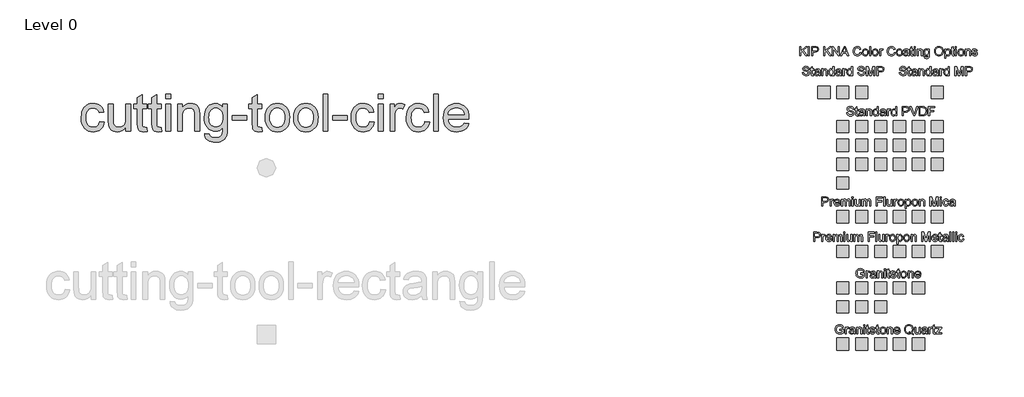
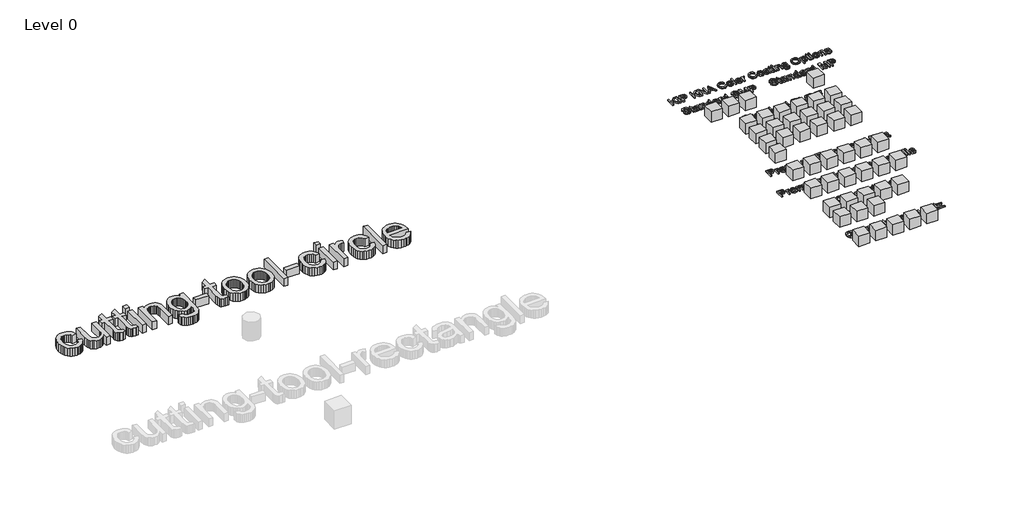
# One storey, part 5 of 5: 50 proxies.
"""IFC4 building model written with IfcOpenShell, lengths in millimetres."""

from ifc_helpers import new_model, si_unit, origin, origin_with_axes, place, context, project, spatial, polyline, outline, extrude, transform, mapped, element, save
from components import ks_color_sample_ks_color_sample_0243efec, r19_kna_color_range_kingspan_quadcore_4278cd54, r19_kna_color_range_kingspan_quadcore_c5814d20, r19_kna_color_range_kingspan_quadcore_91b79b7c

model = new_model("IFC4")

# Units and contexts
model_context = context("Model", 3, world=origin())
ifc_project = project(units=[si_unit("LENGTHUNIT", "METRE", prefix="MILLI")], contexts=[model_context])

# Site, building, storey
site = spatial("IfcSite", under=ifc_project)
building = spatial("IfcBuilding", under=site)
storey = spatial("IfcBuildingStorey", under=building, Name="Level 0", Elevation=0.0)

# Proxies
placement = place(None, origin())
element("IfcBuildingElementProxy", 1, Name="24\" Arial", ObjectType="24\" Arial", at=placement, inside=storey, context=model_context, shape_type="SweptSolid", body=[
    extrude(outline(polyline([(295.3364524, 13162.5064112), (371.4782259, 13152.9886895), (363.1966927, 13117.0602195), (350.2492451, 13085.2678689), (332.6358832, 13057.6116376), (310.356607, 13034.0915255), (284.350176, 13015.3209797), (255.5553501, 13001.9134469), (223.9721291, 12993.8689273), (189.600513, 12991.1874207), (146.8962432, 12994.9285174), (108.6069322, 13006.1518074), (74.7325799, 13024.8572907), (45.2731865, 13051.0449673), (21.4277617, 13084.2222208), (4.3953154, 13123.8964347), (-5.8241524, 13170.067609), (-9.2306416, 13222.7357437), (-3.4121907, 13290.4937429), (3.860873, 13320.9848425), (14.0431622, 13349.2173421), (27.2043867, 13374.6242681), (43.4142565, 13396.6386469), (62.6727714, 13415.2604783), (84.9799316, 13430.4897625), (109.3272675, 13442.3311467), (134.7063096, 13450.7892783), (161.1170578, 13455.8641572), (188.5595122, 13457.5557835), (222.340918, 13455.232121), (252.8970801, 13448.2611334), (280.2279987, 13436.6428208), (304.3336737, 13420.3771832), (324.8051405, 13399.8360065), (341.2334346, 13375.3910768), (353.6185558, 13347.042394), (361.9605043, 13314.7899582), (285.8187307, 13305.2722365), (272.0068807, 13338.4913159), (250.4990604, 13362.3042094), (222.484985, 13376.6365599), (189.1543698, 13381.41401), (163.2827113, 13379.0624635), (139.9484923, 13372.0078241), (119.1517127, 13360.2500918), (100.8923726, 13343.7892665), (86.0255798, 13322.2442676), (75.4064421, 13295.2340144), (69.0349594, 13262.758507), (66.9111319, 13224.8177453), (68.9884862, 13186.3053627), (75.2205491, 13153.453422), (85.6073205, 13126.2619231), (100.1488006, 13104.7308662), (118.0456493, 13088.3676347), (138.4985268, 13076.6796122), (161.5074331, 13069.6667988), (187.0723682, 13067.3291943), (226.5002739, 13073.1662345), (243.5513095, 13080.4625348), (258.8270669, 13090.6773553), (271.8999922, 13103.9222316), (282.3425316, 13120.3086998), (290.154685, 13139.8367596), (295.3364524, 13162.5064112)])), origin_with_axes(), (0.0, 0.0, 1.0), 152.4),
    extrude(outline(polyline([(723.6339285, 13000.7051424), (723.6339285, 13077.590488), (696.0845856, 13039.789146), (663.9994535, 13012.7881875), (627.3785322, 12996.5876124), (586.2218216, 12991.1874207), (549.1361677, 12994.979638), (514.6158373, 13006.3562897), (485.6537076, 13023.4584458), (465.242656, 13044.4271764), (451.5051632, 13069.8945177), (442.5637098, 13100.4925058), (438.1022778, 13171.2805608), (438.1022778, 13448.0380618), (514.2440513, 13448.0380618), (514.2440513, 13207.1207316), (515.3965879, 13158.9372655), (518.8541977, 13129.491814), (529.9520099, 13103.5969189), (548.968864, 13083.91085), (574.6406876, 13071.4746082), (605.7034081, 13067.3291943), (638.5507016, 13071.5675547), (669.2788147, 13084.282636), (694.6160309, 13104.3033123), (711.2906331, 13130.4584576), (720.5481046, 13166.2800391), (723.6339285, 13215.3000236), (723.6339285, 13448.0380618), (799.775702, 13448.0380618), (799.775702, 13000.7051424), (723.6339285, 13000.7051424)])), origin_with_axes(), (0.0, 0.0, 1.0), 152.4),
    extrude(outline(polyline([(1066.2719093, 13064.2061918), (1075.789631, 12998.4744264), (1045.6377861, 12993.0091722), (1018.8320152, 12991.1874207), (982.2854511, 12994.3476018), (955.033537, 13003.8281449), (935.7750221, 13018.4393348), (923.2086551, 13036.9914564), (916.2934355, 13068.8535169), (913.9883623, 13123.3945236), (913.9883623, 13371.8962883), (856.8820321, 13371.8962883), (856.8820321, 13448.0380618), (913.9883623, 13448.0380618), (913.9883623, 13556.7482893), (990.1301358, 13601.5113241), (990.1301358, 13448.0380618), (1066.2719093, 13448.0380618), (1066.2719093, 13371.8962883), (990.1301358, 13371.8962883), (990.1301358, 13125.6252396), (994.1454246, 13086.3646376), (1007.1579347, 13072.4598411), (1018.1442111, 13068.611856), (1033.1085978, 13067.3291943), (1066.2719093, 13064.2061918)])), origin_with_axes(), (0.0, 0.0, 1.0), 152.4),
    extrude(outline(polyline([(1304.2149515, 13064.2061918), (1313.7326732, 12998.4744264), (1283.5808283, 12993.0091722), (1256.7750575, 12991.1874207), (1220.2284933, 12994.3476018), (1192.9765793, 13003.8281449), (1173.7180643, 13018.4393348), (1161.1516974, 13036.9914564), (1154.2364777, 13068.8535169), (1151.9314045, 13123.3945236), (1151.9314045, 13371.8962883), (1094.8250744, 13371.8962883), (1094.8250744, 13448.0380618), (1151.9314045, 13448.0380618), (1151.9314045, 13556.7482893), (1228.073178, 13601.5113241), (1228.073178, 13448.0380618), (1304.2149515, 13448.0380618), (1304.2149515, 13371.8962883), (1228.073178, 13371.8962883), (1228.073178, 13125.6252396), (1232.0884668, 13086.3646376), (1245.100977, 13072.4598411), (1256.0872534, 13068.611856), (1271.05164, 13067.3291943), (1304.2149515, 13064.2061918)])), origin_with_axes(), (0.0, 0.0, 1.0), 152.4),
    extrude(outline(polyline([(1380.356725, 13533.697557), (1380.356725, 13609.8393306), (1456.4984986, 13609.8393306), (1456.4984986, 13533.697557), (1380.356725, 13533.697557)])), origin_with_axes(), (0.0, 0.0, 1.0), 152.4),
    extrude(outline(polyline([(1380.356725, 13000.7051424), (1380.356725, 13448.0380618), (1456.4984986, 13448.0380618), (1456.4984986, 13000.7051424), (1380.356725, 13000.7051424)])), origin_with_axes(), (0.0, 0.0, 1.0), 152.4),
    extrude(outline(polyline([(1570.7111588, 13000.7051424), (1570.7111588, 13448.0380618), (1646.8529324, 13448.0380618), (1646.8529324, 13385.5780133), (1673.3055065, 13417.0682877), (1705.0746205, 13439.561341), (1742.1602744, 13453.0571729), (1784.5624681, 13457.5557835), (1822.0942651, 13453.93087), (1856.4658811, 13443.0561294), (1885.130582, 13426.2885806), (1905.5416336, 13404.9852426), (1919.3906622, 13379.2018833), (1928.3692942, 13348.9942705), (1932.384583, 13275.3806418), (1932.384583, 13000.7051424), (1856.2428095, 13000.7051424), (1856.2428095, 13265.1193481), (1854.0492721, 13304.4914859), (1847.4686598, 13332.486972), (1835.3298468, 13352.5448268), (1816.4617072, 13368.1040711), (1792.2770276, 13378.0865253), (1764.1885951, 13381.41401), (1741.068153, 13379.5457853), (1719.5928639, 13373.9411113), (1699.762728, 13364.599988), (1681.5777451, 13351.5224153), (1666.3856395, 13333.2212493), (1655.5341355, 13308.2093459), (1649.0232331, 13276.4867052), (1646.8529324, 13238.0533271), (1646.8529324, 13000.7051424), (1570.7111588, 13000.7051424)])), origin_with_axes(), (0.0, 0.0, 1.0), 152.4),
    extrude(outline(polyline([(2018.0440782, 12962.6342557), (2094.1858518, 12953.116534), (2102.5882154, 12929.3222298), (2118.8724424, 12912.9636456), (2150.8832173, 12900.2485643), (2192.7834999, 12896.0102038), (2237.4721775, 12900.8062433), (2255.522388, 12906.8012926), (2270.7098462, 12915.1943616), (2293.7605784, 12938.2450938), (2307.8884466, 12969.0289749), (2312.0152712, 13001.7833218), (2313.0934506, 13057.8114726), (2287.7562345, 13032.8274531), (2259.4819089, 13014.981725), (2228.2704739, 13004.2742881), (2194.1219295, 13000.7051424), (2152.3750086, 13004.859851), (2115.6193149, 13017.3239768), (2083.8548482, 13038.0975197), (2057.0816086, 13067.1804799), (2035.8386858, 13102.0725963), (2020.6651696, 13140.2736081), (2011.5610598, 13181.7835154), (2008.5263566, 13226.6023182), (2013.9730215, 13288.0771338), (2030.3130164, 13344.6071957), (2042.4239454, 13370.0977735), (2056.9700728, 13392.5118222), (2073.9513985, 13411.8493417), (2093.3679226, 13428.1103321), (2114.9082741, 13440.9927171), (2138.2610825, 13450.1944207), (2163.4263476, 13455.7154428), (2190.4040695, 13457.5557835), (2226.011874, 13453.3917803), (2258.3293723, 13440.8997706), (2287.3565645, 13420.0797544), (2313.0934506, 13390.9317317), (2313.0934506, 13448.0380618), (2389.2352241, 13448.0380618), (2389.2352241, 13061.8267614), (2384.0302201, 12972.6538885), (2377.523965, 12939.4859296), (2368.4152079, 12913.9302892), (2356.4855246, 12893.3194026), (2341.5164906, 12874.9857053), (2323.5081061, 12858.9291973), (2302.4603709, 12845.1498786), (2278.5870622, 12834.089245), (2252.1019568, 12826.1887924), (2223.0050547, 12821.4485208), (2191.2963559, 12819.8684303), (2153.9922778, 12822.094499), (2120.4525329, 12828.7727051), (2090.6771214, 12839.9030486), (2064.6660431, 12855.4855295), (2043.6554866, 12875.538737), (2028.8816403, 12900.0812606), (2020.3445041, 12929.1131001), (2018.0440782, 12962.6342557)]), holes=[polyline([(2084.6681301, 13231.8073222), (2086.6990111, 13194.159342), (2092.7916543, 13161.9673214), (2102.9460595, 13135.2312605), (2117.1622268, 13113.9511591), (2134.4456286, 13097.7180527), (2153.8017374, 13086.1229767), (2175.2305532, 13079.1659311), (2198.732076, 13076.8469159), (2222.0012324, 13079.1519892), (2243.3278071, 13086.0672088), (2262.7117998, 13097.5925749), (2280.1532107, 13113.7280875), (2294.5645657, 13134.7990592), (2304.8583907, 13161.1308029), (2311.0346856, 13192.7233186), (2313.0934506, 13229.5766062), (2310.9742704, 13264.8916292), (2304.6167297, 13295.5872111), (2294.0208286, 13321.6633519), (2279.1865671, 13343.1200517), (2261.3687229, 13359.8736584), (2241.8220738, 13371.8405204), (2220.5466197, 13379.0206376), (2197.5423607, 13381.41401), (2174.9238298, 13379.0578162), (2154.0619876, 13371.9892348), (2134.9568344, 13360.2082658), (2117.60837, 13343.7149093), (2103.197015, 13322.5835223), (2092.9031901, 13296.8884621), (2086.7268951, 13266.6297288), (2084.6681301, 13231.8073222)])]), origin_with_axes(), (0.0, 0.0, 1.0), 152.4),
    extrude(outline(polyline([(2465.3769977, 13181.5418545), (2465.3769977, 13257.683628), (2703.3200399, 13257.683628), (2703.3200399, 13181.5418545), (2465.3769977, 13181.5418545)])), origin_with_axes(), (0.0, 0.0, 1.0), 152.4),
    extrude(outline(polyline([(2950.7808038, 13064.2061918), (2960.2985255, 12998.4744264), (2930.1466806, 12993.0091722), (2903.3409098, 12991.1874207), (2866.7943456, 12994.3476018), (2839.5424316, 13003.8281449), (2820.2839166, 13018.4393348), (2807.7175497, 13036.9914564), (2800.80233, 13068.8535169), (2798.4972568, 13123.3945236), (2798.4972568, 13371.8962883), (2741.3909267, 13371.8962883), (2741.3909267, 13448.0380618), (2798.4972568, 13448.0380618), (2798.4972568, 13556.7482893), (2874.6390303, 13601.5113241), (2874.6390303, 13448.0380618), (2950.7808038, 13448.0380618), (2950.7808038, 13371.8962883), (2874.6390303, 13371.8962883), (2874.6390303, 13125.6252396), (2878.6543192, 13086.3646376), (2891.6668293, 13072.4598411), (2902.6531057, 13068.611856), (2917.6174923, 13067.3291943), (2950.7808038, 13064.2061918)])), origin_with_axes(), (0.0, 0.0, 1.0), 152.4),
    extrude(outline(polyline([(3007.887134, 13224.3716021), (3012.004664, 13282.3051561), (3024.3572539, 13332.2267217), (3044.9449039, 13374.136299), (3073.7676138, 13408.0338879), (3102.7855114, 13429.6997172), (3134.8148756, 13445.1753096), (3169.8557064, 13454.4606651), (3207.9080039, 13457.5557835), (3249.9151749, 13453.7868029), (3287.8977625, 13442.4798611), (3321.8557666, 13423.634958), (3351.7891872, 13397.2520938), (3376.220175, 13364.2235547), (3393.6708805, 13325.4416272), (3404.1413038, 13280.9063113), (3407.6314449, 13230.617607), (3406.088533, 13189.8605664), (3401.4597973, 13153.6950829), (3393.7452377, 13122.1211565), (3382.9448543, 13095.1387873), (3369.1934195, 13071.8324522), (3352.6257057, 13051.2866282), (3333.241713, 13033.5013153), (3311.0414412, 13018.4765134), (3286.889293, 13006.5375354), (3261.6496707, 12998.0096939), (3235.3225743, 12992.892989), (3207.9080039, 12991.1874207), (3165.2873859, 12994.9424594), (3126.9516016, 13006.2075753), (3092.900651, 13024.9827685), (3063.1345341, 13051.2680389), (3038.9637965, 13084.6172434), (3021.698984, 13124.5842388), (3011.3400965, 13171.169025), (3007.887134, 13224.3716021)]), holes=[polyline([(3084.0289075, 13224.5203165), (3086.2317396, 13187.5880244), (3092.8402358, 13155.6097808), (3103.8543961, 13128.5855857), (3119.2742206, 13106.515439), (3138.0308245, 13089.3714569), (3159.055323, 13077.1257554), (3182.3477161, 13069.7783346), (3207.9080039, 13067.3291943), (3233.3381665, 13069.7922765), (3256.5376131, 13077.1815233), (3277.5063437, 13089.4969347), (3296.2443583, 13106.7385106), (3311.6641828, 13129.0270815), (3322.6783431, 13156.4834779), (3329.2868393, 13189.1076997), (3331.4896714, 13226.899747), (3329.2728974, 13262.6609132), (3322.6225752, 13293.8026383), (3311.538705, 13320.3249223), (3296.0212867, 13342.2277652), (3277.2135622, 13359.3717473), (3256.2587736, 13371.6174488), (3233.1569208, 13378.9648697), (3207.9080039, 13381.41401), (3182.3477161, 13378.9741644), (3159.055323, 13371.6546274), (3138.0308245, 13359.4553992), (3119.2742206, 13342.3764796), (3103.8543961, 13320.3713956), (3092.8402358, 13293.3936737), (3086.2317396, 13261.443314), (3084.0289075, 13224.5203165)])]), origin_with_axes(), (0.0, 0.0, 1.0), 152.4),
    extrude(outline(polyline([(3474.2554968, 13224.3716021), (3478.3730268, 13282.3051561), (3490.7256167, 13332.2267217), (3511.3132667, 13374.136299), (3540.1359766, 13408.0338879), (3569.1538742, 13429.6997172), (3601.1832384, 13445.1753096), (3636.2240692, 13454.4606651), (3674.2763666, 13457.5557835), (3716.2835377, 13453.7868029), (3754.2661253, 13442.4798611), (3788.2241294, 13423.634958), (3818.15755, 13397.2520938), (3842.5885378, 13364.2235547), (3860.0392433, 13325.4416272), (3870.5096666, 13280.9063113), (3873.9998077, 13230.617607), (3872.4568958, 13189.8605664), (3867.8281601, 13153.6950829), (3860.1136005, 13122.1211565), (3849.3132171, 13095.1387873), (3835.5617823, 13071.8324522), (3818.9940685, 13051.2866282), (3799.6100758, 13033.5013153), (3777.409804, 13018.4765134), (3753.2576558, 13006.5375354), (3728.0180335, 12998.0096939), (3701.6909371, 12992.892989), (3674.2763666, 12991.1874207), (3631.6557487, 12994.9424594), (3593.3199644, 13006.2075753), (3559.2690138, 13024.9827685), (3529.5028969, 13051.2680389), (3505.3321593, 13084.6172434), (3488.0673468, 13124.5842388), (3477.7084593, 13171.169025), (3474.2554968, 13224.3716021)]), holes=[polyline([(3550.3972703, 13224.5203165), (3552.6001024, 13187.5880244), (3559.2085986, 13155.6097808), (3570.2227589, 13128.5855857), (3585.6425834, 13106.515439), (3604.3991873, 13089.3714569), (3625.4236858, 13077.1257554), (3648.7160789, 13069.7783346), (3674.2763666, 13067.3291943), (3699.7065293, 13069.7922765), (3722.9059759, 13077.1815233), (3743.8747065, 13089.4969347), (3762.6127211, 13106.7385106), (3778.0325456, 13129.0270815), (3789.0467059, 13156.4834779), (3795.6552021, 13189.1076997), (3797.8580342, 13226.899747), (3795.6412602, 13262.6609132), (3788.990938, 13293.8026383), (3777.9070678, 13320.3249223), (3762.3896495, 13342.2277652), (3743.581925, 13359.3717473), (3722.6271364, 13371.6174488), (3699.5252836, 13378.9648697), (3674.2763666, 13381.41401), (3648.7160789, 13378.9741644), (3625.4236858, 13371.6546274), (3604.3991873, 13359.4553992), (3585.6425834, 13342.3764796), (3570.2227589, 13320.3713956), (3559.2085986, 13293.3936737), (3552.6001024, 13261.443314), (3550.3972703, 13224.5203165)])]), origin_with_axes(), (0.0, 0.0, 1.0), 152.4),
    extrude(outline(polyline([(3959.6593029, 13000.7051424), (3959.6593029, 13609.8393306), (4035.8010765, 13609.8393306), (4035.8010765, 13000.7051424), (3959.6593029, 13000.7051424)])), origin_with_axes(), (0.0, 0.0, 1.0), 152.4),
    extrude(outline(polyline([(4111.94285, 13181.5418545), (4111.94285, 13257.683628), (4349.8858922, 13257.683628), (4349.8858922, 13181.5418545), (4111.94285, 13181.5418545)])), origin_with_axes(), (0.0, 0.0, 1.0), 152.4),
    extrude(outline(polyline([(4721.0770381, 13162.5064112), (4797.2188116, 13152.9886895), (4788.9372784, 13117.0602195), (4775.9898308, 13085.2678689), (4758.3764689, 13057.6116376), (4736.0971926, 13034.0915255), (4710.0907617, 13015.3209797), (4681.2959357, 13001.9134469), (4649.7127147, 12993.8689273), (4615.3410987, 12991.1874207), (4572.6368289, 12994.9285174), (4534.3475178, 13006.1518074), (4500.4731656, 13024.8572907), (4471.0137722, 13051.0449673), (4447.1683474, 13084.2222208), (4430.1359011, 13123.8964347), (4419.9164333, 13170.067609), (4416.509944, 13222.7357437), (4422.328395, 13290.4937429), (4429.6014587, 13320.9848425), (4439.7837479, 13349.2173421), (4452.9449724, 13374.6242681), (4469.1548421, 13396.6386469), (4488.4133571, 13415.2604783), (4510.7205173, 13430.4897625), (4535.0678532, 13442.3311467), (4560.4468953, 13450.7892783), (4586.8576435, 13455.8641572), (4614.3000979, 13457.5557835), (4648.0815036, 13455.232121), (4678.6376658, 13448.2611334), (4705.9685844, 13436.6428208), (4730.0742594, 13420.3771832), (4750.5457262, 13399.8360065), (4766.9740202, 13375.3910768), (4779.3591415, 13347.042394), (4787.7010899, 13314.7899582), (4711.5593164, 13305.2722365), (4697.7474664, 13338.4913159), (4676.2396461, 13362.3042094), (4648.2255707, 13376.6365599), (4614.8949555, 13381.41401), (4589.023297, 13379.0624635), (4565.6890779, 13372.0078241), (4544.8922984, 13360.2500918), (4526.6329583, 13343.7892665), (4511.7661655, 13322.2442676), (4501.1470277, 13295.2340144), (4494.7755451, 13262.758507), (4492.6517176, 13224.8177453), (4494.7290718, 13186.3053627), (4500.9611347, 13153.453422), (4511.3479062, 13126.2619231), (4525.8893863, 13104.7308662), (4543.786235, 13088.3676347), (4564.2391125, 13076.6796122), (4587.2480188, 13069.6667988), (4612.8129539, 13067.3291943), (4652.2408596, 13073.1662345), (4669.2918951, 13080.4625348), (4684.5676526, 13090.6773553), (4697.6405779, 13103.9222316), (4708.0831173, 13120.3086998), (4715.8952707, 13139.8367596), (4721.0770381, 13162.5064112)])), origin_with_axes(), (0.0, 0.0, 1.0), 152.4),
    extrude(outline(polyline([(4863.8428634, 13533.697557), (4863.8428634, 13609.8393306), (4939.984637, 13609.8393306), (4939.984637, 13533.697557), (4863.8428634, 13533.697557)])), origin_with_axes(), (0.0, 0.0, 1.0), 152.4),
    extrude(outline(polyline([(4863.8428634, 13000.7051424), (4863.8428634, 13448.0380618), (4939.984637, 13448.0380618), (4939.984637, 13000.7051424), (4863.8428634, 13000.7051424)])), origin_with_axes(), (0.0, 0.0, 1.0), 152.4),
    extrude(outline(polyline([(5054.1972972, 13000.7051424), (5054.1972972, 13448.0380618), (5120.8213491, 13448.0380618), (5120.8213491, 13381.8601532), (5145.4335825, 13420.2284688), (5168.1125287, 13442.8330578), (5190.8658321, 13453.8751021), (5215.7011372, 13457.5557835), (5253.6233095, 13451.6815647), (5292.1403395, 13434.0589081), (5266.7101768, 13365.7989979), (5239.9415846, 13377.510257), (5213.1729923, 13381.41401), (5190.4382782, 13377.6589714), (5170.1201731, 13366.3938555), (5153.7058211, 13348.4737701), (5142.6823661, 13324.7538231), (5133.4248946, 13282.2215043), (5130.3390708, 13235.822611), (5130.3390708, 13000.7051424), (5054.1972972, 13000.7051424)])), origin_with_axes(), (0.0, 0.0, 1.0), 152.4),
    extrude(outline(polyline([(5625.2605986, 13162.5064112), (5701.4023721, 13152.9886895), (5693.1208389, 13117.0602195), (5680.1733913, 13085.2678689), (5662.5600294, 13057.6116376), (5640.2807532, 13034.0915255), (5614.2743222, 13015.3209797), (5585.4794962, 13001.9134469), (5553.8962752, 12993.8689273), (5519.5246592, 12991.1874207), (5476.8203894, 12994.9285174), (5438.5310784, 13006.1518074), (5404.6567261, 13024.8572907), (5375.1973327, 13051.0449673), (5351.3519079, 13084.2222208), (5334.3194616, 13123.8964347), (5324.0999938, 13170.067609), (5320.6935046, 13222.7357437), (5326.5119555, 13290.4937429), (5333.7850192, 13320.9848425), (5343.9673084, 13349.2173421), (5357.1285329, 13374.6242681), (5373.3384026, 13396.6386469), (5392.5969176, 13415.2604783), (5414.9040778, 13430.4897625), (5439.2514137, 13442.3311467), (5464.6304558, 13450.7892783), (5491.041204, 13455.8641572), (5518.4836584, 13457.5557835), (5552.2650642, 13455.232121), (5582.8212263, 13448.2611334), (5610.1521449, 13436.6428208), (5634.2578199, 13420.3771832), (5654.7292867, 13399.8360065), (5671.1575808, 13375.3910768), (5683.542702, 13347.042394), (5691.8846504, 13314.7899582), (5615.7428769, 13305.2722365), (5601.9310269, 13338.4913159), (5580.4232066, 13362.3042094), (5552.4091312, 13376.6365599), (5519.078516, 13381.41401), (5493.2068575, 13379.0624635), (5469.8726385, 13372.0078241), (5449.0758589, 13360.2500918), (5430.8165188, 13343.7892665), (5415.949726, 13322.2442676), (5405.3305882, 13295.2340144), (5398.9591056, 13262.758507), (5396.8352781, 13224.8177453), (5398.9126324, 13186.3053627), (5405.1446952, 13153.453422), (5415.5314667, 13126.2619231), (5430.0729468, 13104.7308662), (5447.9697955, 13088.3676347), (5468.422673, 13076.6796122), (5491.4315793, 13069.6667988), (5516.9965144, 13067.3291943), (5556.4244201, 13073.1662345), (5573.4754557, 13080.4625348), (5588.7512131, 13090.6773553), (5601.8241384, 13103.9222316), (5612.2666778, 13120.3086998), (5620.0788312, 13139.8367596), (5625.2605986, 13162.5064112)])), origin_with_axes(), (0.0, 0.0, 1.0), 152.4),
    extrude(outline(polyline([(5768.026424, 13000.7051424), (5768.026424, 13609.8393306), (5844.1681975, 13609.8393306), (5844.1681975, 13000.7051424), (5768.026424, 13000.7051424)])), origin_with_axes(), (0.0, 0.0, 1.0), 152.4),
    extrude(outline(polyline([(6271.5733871, 13133.9532461), (6346.2280166, 13124.4355244), (6334.781655, 13094.5346351), (6319.3292993, 13068.1843021), (6299.8709493, 13045.3845254), (6276.4066052, 13026.1353051), (6249.1779277, 13010.8456057), (6218.4265779, 12999.9243918), (6184.1525557, 12993.3716635), (6146.3558611, 12991.1874207), (6099.1111547, 12994.9564013), (6057.0156845, 13006.2633432), (6020.0694504, 13025.1082462), (5988.2724524, 13051.4911105), (5962.70287, 13084.6776586), (5944.4388826, 13123.9336133), (5933.4804902, 13169.2589744), (5929.8276927, 13220.6537421), (5933.5176688, 13273.7912566), (5944.587597, 13320.6269984), (5963.0374775, 13361.1609675), (5988.86731, 13395.3931637), (6020.5806561, 13422.5893099), (6056.6810771, 13442.0151286), (6097.1685729, 13453.6706198), (6142.0431435, 13457.5557835), (6185.472396, 13453.6799144), (6224.74694, 13442.0523072), (6259.8667753, 13422.6729618), (6290.8319021, 13395.5418781), (6316.108703, 13361.3840391), (6334.1635608, 13320.9244272), (6344.9964755, 13274.1630427), (6348.607447, 13221.0998853), (6348.1613038, 13200.5772979), (6005.9694662, 13200.5772979), (6010.3797777, 13170.1930868), (6019.14928, 13143.5825036), (6032.2779733, 13120.7455483), (6049.7658574, 13101.682221), (6070.6462888, 13086.6527718), (6093.9526239, 13075.9174509), (6119.6848627, 13069.4762584), (6147.8430051, 13067.3291943), (6188.3676795, 13071.3073045), (6222.4976346, 13083.2416352), (6250.2328705, 13103.8757584), (6271.5733871, 13133.9532461)]), holes=[polyline([(6005.9694662, 13276.7190714), (6272.4656735, 13276.7190714), (6262.1672012, 13316.946317), (6253.3093997, 13332.7658115), (6241.9792212, 13345.7225537), (6221.2149729, 13361.3375658), (6197.5879724, 13372.4911459), (6171.0982197, 13379.183294), (6141.7457147, 13381.41401), (6114.9724751, 13379.6340845), (6090.4206569, 13374.294308), (6068.0902601, 13365.3946806), (6047.9812846, 13352.9352021), (6031.1068474, 13337.492141), (6018.4800652, 13319.6417655), (6010.1009382, 13299.3840757), (6005.9694662, 13276.7190714)])]), origin_with_axes(), (0.0, 0.0, 1.0), 152.4),
])
ks_color_sample_ks_color_sample_shape = ks_color_sample_ks_color_sample_0243efec(model_context)
element("IfcBuildingElementProxy", 2, Name="KS_Color Sample : KS_Color Sample", ObjectType="KS_Color Sample : KS_Color Sample", at=placement, inside=storey, context=model_context, shape_type="MappedRepresentation", body=[
    mapped(ks_color_sample_ks_color_sample_shape, transform((12166.5853815, 13639.2290821, 0.0), x_axis=(1.0, 0.0, 0.0), y_axis=(0.0, 1.0, 0.0), z_axis=(0.0, 0.0, 1.0))),
])
element("IfcBuildingElementProxy", 3, Name="KS_Color Sample : KS_Color Sample", ObjectType="KS_Color Sample : KS_Color Sample", at=placement, inside=storey, context=model_context, shape_type="MappedRepresentation", body=[
    mapped(ks_color_sample_ks_color_sample_shape, transform((12476.5853815, 13639.2290821, 0.0), x_axis=(1.0, 0.0, 0.0), y_axis=(0.0, 1.0, 0.0), z_axis=(0.0, 0.0, 1.0))),
])
element("IfcBuildingElementProxy", 4, Name="KS_Color Sample : KS_Color Sample", ObjectType="KS_Color Sample : KS_Color Sample", at=placement, inside=storey, context=model_context, shape_type="MappedRepresentation", body=[
    mapped(ks_color_sample_ks_color_sample_shape, transform((12786.5853815, 13639.2290821, 0.0), x_axis=(1.0, 0.0, 0.0), y_axis=(0.0, 1.0, 0.0), z_axis=(0.0, 0.0, 1.0))),
])
element("IfcBuildingElementProxy", 5, Name="KS_Color Sample : KS_Color Sample", ObjectType="KS_Color Sample : KS_Color Sample", at=placement, inside=storey, context=model_context, shape_type="MappedRepresentation", body=[
    mapped(ks_color_sample_ks_color_sample_shape, transform((14026.5853815, 13639.2290821, 0.0), x_axis=(1.0, 0.0, 0.0), y_axis=(0.0, 1.0, 0.0), z_axis=(0.0, 0.0, 1.0))),
])
element("IfcBuildingElementProxy", 6, Name="KS_Color Sample : KS_Color Sample", ObjectType="KS_Color Sample : KS_Color Sample", at=placement, inside=storey, context=model_context, shape_type="MappedRepresentation", body=[
    mapped(ks_color_sample_ks_color_sample_shape, transform((12786.5853815, 13079.2290821, 0.0), x_axis=(1.0, 0.0, 0.0), y_axis=(0.0, 1.0, 0.0), z_axis=(0.0, 0.0, 1.0))),
])
element("IfcBuildingElementProxy", 7, Name="KS_Color Sample : KS_Color Sample", ObjectType="KS_Color Sample : KS_Color Sample", at=placement, inside=storey, context=model_context, shape_type="MappedRepresentation", body=[
    mapped(ks_color_sample_ks_color_sample_shape, transform((13096.5853815, 13079.2290821, 0.0), x_axis=(1.0, 0.0, 0.0), y_axis=(0.0, 1.0, 0.0), z_axis=(0.0, 0.0, 1.0))),
])
element("IfcBuildingElementProxy", 8, Name="KS_Color Sample : KS_Color Sample", ObjectType="KS_Color Sample : KS_Color Sample", at=placement, inside=storey, context=model_context, shape_type="MappedRepresentation", body=[
    mapped(ks_color_sample_ks_color_sample_shape, transform((13406.5853815, 13079.2290821, 0.0), x_axis=(1.0, 0.0, 0.0), y_axis=(0.0, 1.0, 0.0), z_axis=(0.0, 0.0, 1.0))),
])
element("IfcBuildingElementProxy", 9, Name="KS_Color Sample : KS_Color Sample", ObjectType="KS_Color Sample : KS_Color Sample", at=placement, inside=storey, context=model_context, shape_type="MappedRepresentation", body=[
    mapped(ks_color_sample_ks_color_sample_shape, transform((13716.5853815, 13079.2290821, 0.0), x_axis=(1.0, 0.0, 0.0), y_axis=(0.0, 1.0, 0.0), z_axis=(0.0, 0.0, 1.0))),
])
element("IfcBuildingElementProxy", 10, Name="KS_Color Sample : KS_Color Sample", ObjectType="KS_Color Sample : KS_Color Sample", at=placement, inside=storey, context=model_context, shape_type="MappedRepresentation", body=[
    mapped(ks_color_sample_ks_color_sample_shape, transform((12476.5853815, 11599.2290821, 0.0), x_axis=(1.0, 0.0, 0.0), y_axis=(0.0, 1.0, 0.0), z_axis=(0.0, 0.0, 1.0))),
])
element("IfcBuildingElementProxy", 11, Name="KS_Color Sample : KS_Color Sample", ObjectType="KS_Color Sample : KS_Color Sample", at=placement, inside=storey, context=model_context, shape_type="MappedRepresentation", body=[
    mapped(ks_color_sample_ks_color_sample_shape, transform((12786.5853815, 11599.2290821, 0.0), x_axis=(1.0, 0.0, 0.0), y_axis=(0.0, 1.0, 0.0), z_axis=(0.0, 0.0, 1.0))),
])
element("IfcBuildingElementProxy", 12, Name="KS_Color Sample : KS_Color Sample", ObjectType="KS_Color Sample : KS_Color Sample", at=placement, inside=storey, context=model_context, shape_type="MappedRepresentation", body=[
    mapped(ks_color_sample_ks_color_sample_shape, transform((13096.5853815, 11599.2290821, 0.0), x_axis=(1.0, 0.0, 0.0), y_axis=(0.0, 1.0, 0.0), z_axis=(0.0, 0.0, 1.0))),
])
element("IfcBuildingElementProxy", 13, Name="KS_Color Sample : KS_Color Sample", ObjectType="KS_Color Sample : KS_Color Sample", at=placement, inside=storey, context=model_context, shape_type="MappedRepresentation", body=[
    mapped(ks_color_sample_ks_color_sample_shape, transform((13406.5853815, 11599.2290821, 0.0), x_axis=(1.0, 0.0, 0.0), y_axis=(0.0, 1.0, 0.0), z_axis=(0.0, 0.0, 1.0))),
])
element("IfcBuildingElementProxy", 14, Name="KS_Color Sample : KS_Color Sample", ObjectType="KS_Color Sample : KS_Color Sample", at=placement, inside=storey, context=model_context, shape_type="MappedRepresentation", body=[
    mapped(ks_color_sample_ks_color_sample_shape, transform((14026.5853815, 13079.2290821, 0.0), x_axis=(1.0, 0.0, 0.0), y_axis=(0.0, 1.0, 0.0), z_axis=(0.0, 0.0, 1.0))),
])
element("IfcBuildingElementProxy", 15, Name="KS_Color Sample : KS_Color Sample", ObjectType="KS_Color Sample : KS_Color Sample", at=placement, inside=storey, context=model_context, shape_type="MappedRepresentation", body=[
    mapped(ks_color_sample_ks_color_sample_shape, transform((13716.5853815, 12769.2290821, 0.0), x_axis=(1.0, 0.0, 0.0), y_axis=(0.0, 1.0, 0.0), z_axis=(0.0, 0.0, 1.0))),
])
element("IfcBuildingElementProxy", 16, Name="KS_Color Sample : KS_Color Sample", ObjectType="KS_Color Sample : KS_Color Sample", at=placement, inside=storey, context=model_context, shape_type="MappedRepresentation", body=[
    mapped(ks_color_sample_ks_color_sample_shape, transform((14026.5853815, 12769.2290821, 0.0), x_axis=(1.0, 0.0, 0.0), y_axis=(0.0, 1.0, 0.0), z_axis=(0.0, 0.0, 1.0))),
])
element("IfcBuildingElementProxy", 17, Name="KS_Color Sample : KS_Color Sample", ObjectType="KS_Color Sample : KS_Color Sample", at=placement, inside=storey, context=model_context, shape_type="MappedRepresentation", body=[
    mapped(ks_color_sample_ks_color_sample_shape, transform((12476.5853815, 12769.2290821, 0.0), x_axis=(1.0, 0.0, 0.0), y_axis=(0.0, 1.0, 0.0), z_axis=(0.0, 0.0, 1.0))),
])
element("IfcBuildingElementProxy", 18, Name="KS_Color Sample : KS_Color Sample", ObjectType="KS_Color Sample : KS_Color Sample", at=placement, inside=storey, context=model_context, shape_type="MappedRepresentation", body=[
    mapped(ks_color_sample_ks_color_sample_shape, transform((13096.5853815, 12769.2290821, 0.0), x_axis=(1.0, 0.0, 0.0), y_axis=(0.0, 1.0, 0.0), z_axis=(0.0, 0.0, 1.0))),
])
element("IfcBuildingElementProxy", 19, Name="KS_Color Sample : KS_Color Sample", ObjectType="KS_Color Sample : KS_Color Sample", at=placement, inside=storey, context=model_context, shape_type="MappedRepresentation", body=[
    mapped(ks_color_sample_ks_color_sample_shape, transform((13406.5853815, 12769.2290821, 0.0), x_axis=(1.0, 0.0, 0.0), y_axis=(0.0, 1.0, 0.0), z_axis=(0.0, 0.0, 1.0))),
])
element("IfcBuildingElementProxy", 20, Name="KS_Color Sample : KS_Color Sample", ObjectType="KS_Color Sample : KS_Color Sample", at=placement, inside=storey, context=model_context, shape_type="MappedRepresentation", body=[
    mapped(ks_color_sample_ks_color_sample_shape, transform((12476.5853815, 12459.2290821, 0.0), x_axis=(1.0, 0.0, 0.0), y_axis=(0.0, 1.0, 0.0), z_axis=(0.0, 0.0, 1.0))),
])
element("IfcBuildingElementProxy", 21, Name="KS_Color Sample : KS_Color Sample", ObjectType="KS_Color Sample : KS_Color Sample", at=placement, inside=storey, context=model_context, shape_type="MappedRepresentation", body=[
    mapped(ks_color_sample_ks_color_sample_shape, transform((12786.5853815, 12459.2290821, 0.0), x_axis=(1.0, 0.0, 0.0), y_axis=(0.0, 1.0, 0.0), z_axis=(0.0, 0.0, 1.0))),
])
element("IfcBuildingElementProxy", 22, Name="KS_Color Sample : KS_Color Sample", ObjectType="KS_Color Sample : KS_Color Sample", at=placement, inside=storey, context=model_context, shape_type="MappedRepresentation", body=[
    mapped(ks_color_sample_ks_color_sample_shape, transform((13096.5853815, 12459.2290821, 0.0), x_axis=(1.0, 0.0, 0.0), y_axis=(0.0, 1.0, 0.0), z_axis=(0.0, 0.0, 1.0))),
])
element("IfcBuildingElementProxy", 23, Name="KS_Color Sample : KS_Color Sample", ObjectType="KS_Color Sample : KS_Color Sample", at=placement, inside=storey, context=model_context, shape_type="MappedRepresentation", body=[
    mapped(ks_color_sample_ks_color_sample_shape, transform((13406.5853815, 12459.2290821, 0.0), x_axis=(1.0, 0.0, 0.0), y_axis=(0.0, 1.0, 0.0), z_axis=(0.0, 0.0, 1.0))),
])
element("IfcBuildingElementProxy", 24, Name="KS_Color Sample : KS_Color Sample", ObjectType="KS_Color Sample : KS_Color Sample", at=placement, inside=storey, context=model_context, shape_type="MappedRepresentation", body=[
    mapped(ks_color_sample_ks_color_sample_shape, transform((13716.5853815, 12459.2290821, 0.0), x_axis=(1.0, 0.0, 0.0), y_axis=(0.0, 1.0, 0.0), z_axis=(0.0, 0.0, 1.0))),
])
element("IfcBuildingElementProxy", 25, Name="KS_Color Sample : KS_Color Sample", ObjectType="KS_Color Sample : KS_Color Sample", at=placement, inside=storey, context=model_context, shape_type="MappedRepresentation", body=[
    mapped(ks_color_sample_ks_color_sample_shape, transform((14026.5853815, 12459.2290821, 0.0), x_axis=(1.0, 0.0, 0.0), y_axis=(0.0, 1.0, 0.0), z_axis=(0.0, 0.0, 1.0))),
])
element("IfcBuildingElementProxy", 26, Name="KS_Color Sample : KS_Color Sample", ObjectType="KS_Color Sample : KS_Color Sample", at=placement, inside=storey, context=model_context, shape_type="MappedRepresentation", body=[
    mapped(ks_color_sample_ks_color_sample_shape, transform((12476.5853815, 12149.2290821, 0.0), x_axis=(1.0, 0.0, 0.0), y_axis=(0.0, 1.0, 0.0), z_axis=(0.0, 0.0, 1.0))),
])
element("IfcBuildingElementProxy", 27, Name="KS_Color Sample : KS_Color Sample", ObjectType="KS_Color Sample : KS_Color Sample", at=placement, inside=storey, context=model_context, shape_type="MappedRepresentation", body=[
    mapped(ks_color_sample_ks_color_sample_shape, transform((13716.5853815, 11599.2290821, 0.0), x_axis=(1.0, 0.0, 0.0), y_axis=(0.0, 1.0, 0.0), z_axis=(0.0, 0.0, 1.0))),
])
element("IfcBuildingElementProxy", 28, Name="KS_Color Sample : KS_Color Sample", ObjectType="KS_Color Sample : KS_Color Sample", at=placement, inside=storey, context=model_context, shape_type="MappedRepresentation", body=[
    mapped(ks_color_sample_ks_color_sample_shape, transform((14026.5853815, 11599.2290821, 0.0), x_axis=(1.0, 0.0, 0.0), y_axis=(0.0, 1.0, 0.0), z_axis=(0.0, 0.0, 1.0))),
])
element("IfcBuildingElementProxy", 29, Name="KS_Color Sample : KS_Color Sample", ObjectType="KS_Color Sample : KS_Color Sample", at=placement, inside=storey, context=model_context, shape_type="MappedRepresentation", body=[
    mapped(ks_color_sample_ks_color_sample_shape, transform((12476.5853815, 11029.2290821, 0.0), x_axis=(1.0, 0.0, 0.0), y_axis=(0.0, 1.0, 0.0), z_axis=(0.0, 0.0, 1.0))),
])
element("IfcBuildingElementProxy", 30, Name="KS_Color Sample : KS_Color Sample", ObjectType="KS_Color Sample : KS_Color Sample", at=placement, inside=storey, context=model_context, shape_type="MappedRepresentation", body=[
    mapped(ks_color_sample_ks_color_sample_shape, transform((12786.5853815, 11029.2290821, 0.0), x_axis=(1.0, 0.0, 0.0), y_axis=(0.0, 1.0, 0.0), z_axis=(0.0, 0.0, 1.0))),
])
element("IfcBuildingElementProxy", 31, Name="KS_Color Sample : KS_Color Sample", ObjectType="KS_Color Sample : KS_Color Sample", at=placement, inside=storey, context=model_context, shape_type="MappedRepresentation", body=[
    mapped(ks_color_sample_ks_color_sample_shape, transform((13096.5853815, 11029.2290821, 0.0), x_axis=(1.0, 0.0, 0.0), y_axis=(0.0, 1.0, 0.0), z_axis=(0.0, 0.0, 1.0))),
])
element("IfcBuildingElementProxy", 32, Name="KS_Color Sample : KS_Color Sample", ObjectType="KS_Color Sample : KS_Color Sample", at=placement, inside=storey, context=model_context, shape_type="MappedRepresentation", body=[
    mapped(ks_color_sample_ks_color_sample_shape, transform((13406.5853815, 11029.2290821, 0.0), x_axis=(1.0, 0.0, 0.0), y_axis=(0.0, 1.0, 0.0), z_axis=(0.0, 0.0, 1.0))),
])
element("IfcBuildingElementProxy", 33, Name="KS_Color Sample : KS_Color Sample", ObjectType="KS_Color Sample : KS_Color Sample", at=placement, inside=storey, context=model_context, shape_type="MappedRepresentation", body=[
    mapped(ks_color_sample_ks_color_sample_shape, transform((13716.5853815, 11029.2290821, 0.0), x_axis=(1.0, 0.0, 0.0), y_axis=(0.0, 1.0, 0.0), z_axis=(0.0, 0.0, 1.0))),
])
element("IfcBuildingElementProxy", 34, Name="KS_Color Sample : KS_Color Sample", ObjectType="KS_Color Sample : KS_Color Sample", at=placement, inside=storey, context=model_context, shape_type="MappedRepresentation", body=[
    mapped(ks_color_sample_ks_color_sample_shape, transform((14026.5853815, 11029.2290821, 0.0), x_axis=(1.0, 0.0, 0.0), y_axis=(0.0, 1.0, 0.0), z_axis=(0.0, 0.0, 1.0))),
])
element("IfcBuildingElementProxy", 35, Name="KS_Color Sample : KS_Color Sample", ObjectType="KS_Color Sample : KS_Color Sample", at=placement, inside=storey, context=model_context, shape_type="MappedRepresentation", body=[
    mapped(ks_color_sample_ks_color_sample_shape, transform((12476.5853815, 10429.2290821, 0.0), x_axis=(1.0, 0.0, 0.0), y_axis=(0.0, 1.0, 0.0), z_axis=(0.0, 0.0, 1.0))),
])
element("IfcBuildingElementProxy", 36, Name="KS_Color Sample : KS_Color Sample", ObjectType="KS_Color Sample : KS_Color Sample", at=placement, inside=storey, context=model_context, shape_type="MappedRepresentation", body=[
    mapped(ks_color_sample_ks_color_sample_shape, transform((12786.5853815, 10429.2290821, 0.0), x_axis=(1.0, 0.0, 0.0), y_axis=(0.0, 1.0, 0.0), z_axis=(0.0, 0.0, 1.0))),
])
element("IfcBuildingElementProxy", 37, Name="KS_Color Sample : KS_Color Sample", ObjectType="KS_Color Sample : KS_Color Sample", at=placement, inside=storey, context=model_context, shape_type="MappedRepresentation", body=[
    mapped(ks_color_sample_ks_color_sample_shape, transform((13096.5853815, 10429.2290821, 0.0), x_axis=(1.0, 0.0, 0.0), y_axis=(0.0, 1.0, 0.0), z_axis=(0.0, 0.0, 1.0))),
])
element("IfcBuildingElementProxy", 38, Name="KS_Color Sample : KS_Color Sample", ObjectType="KS_Color Sample : KS_Color Sample", at=placement, inside=storey, context=model_context, shape_type="MappedRepresentation", body=[
    mapped(ks_color_sample_ks_color_sample_shape, transform((13406.5853815, 10429.2290821, 0.0), x_axis=(1.0, 0.0, 0.0), y_axis=(0.0, 1.0, 0.0), z_axis=(0.0, 0.0, 1.0))),
])
element("IfcBuildingElementProxy", 39, Name="KS_Color Sample : KS_Color Sample", ObjectType="KS_Color Sample : KS_Color Sample", at=placement, inside=storey, context=model_context, shape_type="MappedRepresentation", body=[
    mapped(ks_color_sample_ks_color_sample_shape, transform((13716.5853815, 10429.2290821, 0.0), x_axis=(1.0, 0.0, 0.0), y_axis=(0.0, 1.0, 0.0), z_axis=(0.0, 0.0, 1.0))),
])
element("IfcBuildingElementProxy", 40, Name="KS_Color Sample : KS_Color Sample", ObjectType="KS_Color Sample : KS_Color Sample", at=placement, inside=storey, context=model_context, shape_type="MappedRepresentation", body=[
    mapped(ks_color_sample_ks_color_sample_shape, transform((12476.5853815, 10119.2290821, 0.0), x_axis=(1.0, 0.0, 0.0), y_axis=(0.0, 1.0, 0.0), z_axis=(0.0, 0.0, 1.0))),
])
element("IfcBuildingElementProxy", 41, Name="KS_Color Sample : KS_Color Sample", ObjectType="KS_Color Sample : KS_Color Sample", at=placement, inside=storey, context=model_context, shape_type="MappedRepresentation", body=[
    mapped(ks_color_sample_ks_color_sample_shape, transform((12786.5853815, 10119.2290821, 0.0), x_axis=(1.0, 0.0, 0.0), y_axis=(0.0, 1.0, 0.0), z_axis=(0.0, 0.0, 1.0))),
])
element("IfcBuildingElementProxy", 42, Name="KS_Color Sample : KS_Color Sample", ObjectType="KS_Color Sample : KS_Color Sample", at=placement, inside=storey, context=model_context, shape_type="MappedRepresentation", body=[
    mapped(ks_color_sample_ks_color_sample_shape, transform((13096.5853815, 10119.2290821, 0.0), x_axis=(1.0, 0.0, 0.0), y_axis=(0.0, 1.0, 0.0), z_axis=(0.0, 0.0, 1.0))),
])
element("IfcBuildingElementProxy", 43, Name="KS_Color Sample : KS_Color Sample", ObjectType="KS_Color Sample : KS_Color Sample", at=placement, inside=storey, context=model_context, shape_type="MappedRepresentation", body=[
    mapped(ks_color_sample_ks_color_sample_shape, transform((12476.5853815, 9509.2290821, 0.0), x_axis=(1.0, 0.0, 0.0), y_axis=(0.0, 1.0, 0.0), z_axis=(0.0, 0.0, 1.0))),
])
element("IfcBuildingElementProxy", 44, Name="KS_Color Sample : KS_Color Sample", ObjectType="KS_Color Sample : KS_Color Sample", at=placement, inside=storey, context=model_context, shape_type="MappedRepresentation", body=[
    mapped(ks_color_sample_ks_color_sample_shape, transform((12786.5853815, 9509.2290821, 0.0), x_axis=(1.0, 0.0, 0.0), y_axis=(0.0, 1.0, 0.0), z_axis=(0.0, 0.0, 1.0))),
])
element("IfcBuildingElementProxy", 45, Name="KS_Color Sample : KS_Color Sample", ObjectType="KS_Color Sample : KS_Color Sample", at=placement, inside=storey, context=model_context, shape_type="MappedRepresentation", body=[
    mapped(ks_color_sample_ks_color_sample_shape, transform((13096.5853815, 9509.2290821, 0.0), x_axis=(1.0, 0.0, 0.0), y_axis=(0.0, 1.0, 0.0), z_axis=(0.0, 0.0, 1.0))),
])
element("IfcBuildingElementProxy", 46, Name="KS_Color Sample : KS_Color Sample", ObjectType="KS_Color Sample : KS_Color Sample", at=placement, inside=storey, context=model_context, shape_type="MappedRepresentation", body=[
    mapped(ks_color_sample_ks_color_sample_shape, transform((13406.5853815, 9509.2290821, 0.0), x_axis=(1.0, 0.0, 0.0), y_axis=(0.0, 1.0, 0.0), z_axis=(0.0, 0.0, 1.0))),
])
element("IfcBuildingElementProxy", 47, Name="KS_Color Sample : KS_Color Sample", ObjectType="KS_Color Sample : KS_Color Sample", at=placement, inside=storey, context=model_context, shape_type="MappedRepresentation", body=[
    mapped(ks_color_sample_ks_color_sample_shape, transform((13716.5853815, 9509.2290821, 0.0), x_axis=(1.0, 0.0, 0.0), y_axis=(0.0, 1.0, 0.0), z_axis=(0.0, 0.0, 1.0))),
])
element("IfcBuildingElementProxy", 48, Name="KS_Color Sample : KS_Color Sample", ObjectType="KS_Color Sample : KS_Color Sample", at=placement, inside=storey, context=model_context, shape_type="MappedRepresentation", body=[
    mapped(ks_color_sample_ks_color_sample_shape, transform((12476.5853815, 13079.2290821, 0.0), x_axis=(1.0, 0.0, 0.0), y_axis=(0.0, 1.0, 0.0), z_axis=(0.0, 0.0, 1.0))),
])
element("IfcBuildingElementProxy", 49, Name="KS_Color Sample : KS_Color Sample", ObjectType="KS_Color Sample : KS_Color Sample", at=placement, inside=storey, context=model_context, shape_type="MappedRepresentation", body=[
    mapped(ks_color_sample_ks_color_sample_shape, transform((12786.5853815, 12769.2290821, 0.0), x_axis=(1.0, 0.0, 0.0), y_axis=(0.0, 1.0, 0.0), z_axis=(0.0, 0.0, 1.0))),
])
r19_kna_color_range_kingspan_quadcore_shape = r19_kna_color_range_kingspan_quadcore_4278cd54(model_context)
r19_kna_color_range_kingspan_quadcore_2_shape = r19_kna_color_range_kingspan_quadcore_c5814d20(model_context)
r19_kna_color_range_kingspan_quadcore_3_shape = r19_kna_color_range_kingspan_quadcore_91b79b7c(model_context)
element("IfcBuildingElementProxy", 50, Name="R19_KNA_Color Range : Kingspan Quadcore", ObjectType="R19_KNA_Color Range : Kingspan Quadcore", at=placement, inside=storey, context=model_context, shape_type="MappedRepresentation", body=[
    mapped(r19_kna_color_range_kingspan_quadcore_shape, transform((13221.5853815, 13539.2290821, 0.0), x_axis=(1.0, 0.0, 0.0), y_axis=(0.0, 1.0, 0.0), z_axis=(0.0, 0.0, 1.0))),
    mapped(r19_kna_color_range_kingspan_quadcore_2_shape, transform((13221.5853815, 13539.2290821, 0.0), x_axis=(1.0, 0.0, 0.0), y_axis=(0.0, 1.0, 0.0), z_axis=(0.0, 0.0, 1.0))),
    mapped(r19_kna_color_range_kingspan_quadcore_3_shape, transform((13221.5853815, 13539.2290821, 0.0), x_axis=(1.0, 0.0, 0.0), y_axis=(0.0, 1.0, 0.0), z_axis=(0.0, 0.0, 1.0))),
])

save(model, "model.ifc")
